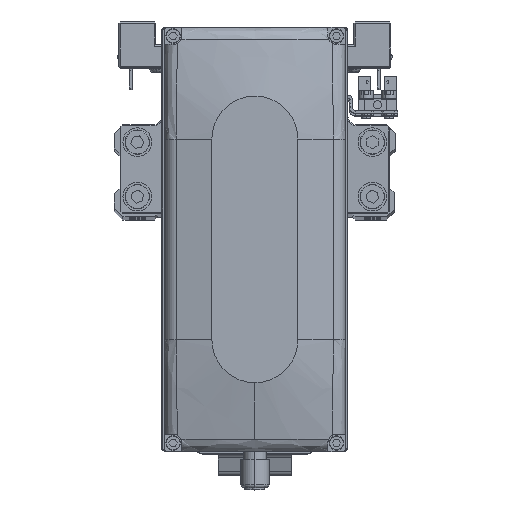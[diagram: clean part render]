
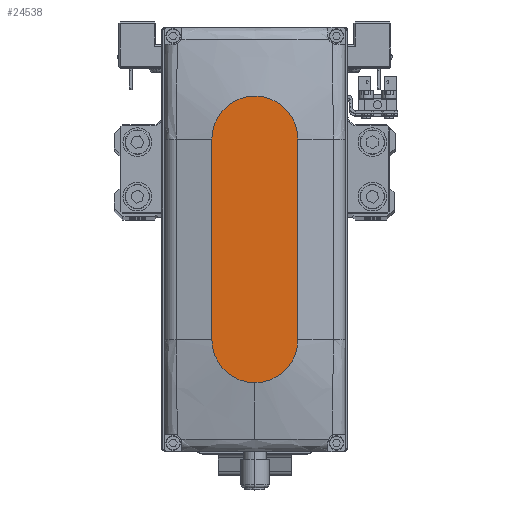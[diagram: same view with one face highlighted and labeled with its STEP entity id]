
A CAD part, top view. The second image highlights one B-rep face of the part: STEP entity #24538.
In plain terms, the highlighted planar face has unit normal (0, 0, 1).
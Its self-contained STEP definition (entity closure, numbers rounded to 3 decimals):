
#736 = VERTEX_POINT ( 'NONE', #2242 ) ;
#776 = LINE ( 'NONE', #13606, #16040 ) ;
#790 = VECTOR ( 'NONE', #16795, 1000. ) ;
#1944 = CARTESIAN_POINT ( 'NONE',  ( 35., 0., 35. ) ) ;
#2242 = CARTESIAN_POINT ( 'NONE',  ( 50., 0., 35. ) ) ;
#2326 = EDGE_CURVE ( 'NONE', #19249, #37494, #776, .T. ) ;
#3010 = CARTESIAN_POINT ( 'NONE',  ( 35., -15., 35. ) ) ;
#3139 = AXIS2_PLACEMENT_3D ( 'NONE', #40512, #11783, #24570 ) ;
#3998 = CARTESIAN_POINT ( 'NONE',  ( -35., -15., 35. ) ) ;
#5296 = AXIS2_PLACEMENT_3D ( 'NONE', #8513, #21317, #34116 ) ;
#6289 = CARTESIAN_POINT ( 'NONE',  ( -35., 0., 35. ) ) ;
#6840 = AXIS2_PLACEMENT_3D ( 'NONE', #1944, #14759, #27564 ) ;
#8513 = CARTESIAN_POINT ( 'NONE',  ( 0., 0., 35. ) ) ;
#11783 = DIRECTION ( 'NONE',  ( 0., 0., 1. ) ) ;
#12115 = CARTESIAN_POINT ( 'NONE',  ( 35., 15., 35. ) ) ;
#12986 = EDGE_LOOP ( 'NONE', ( #23335, #28029, #29574, #25787, #30506 ) ) ;
#13606 = CARTESIAN_POINT ( 'NONE',  ( -35., 15., 35. ) ) ;
#14759 = DIRECTION ( 'NONE',  ( 0., 0., 1. ) ) ;
#16040 = VECTOR ( 'NONE', #26414, 1000. ) ;
#16795 = DIRECTION ( 'NONE',  ( 1., 0., 0. ) ) ;
#17593 = AXIS2_PLACEMENT_3D ( 'NONE', #6289, #19075, #31894 ) ;
#19075 = DIRECTION ( 'NONE',  ( 0., 0., 1. ) ) ;
#19249 = VERTEX_POINT ( 'NONE', #12115 ) ;
#21267 = CIRCLE ( 'NONE', #3139, 15. ) ;
#21317 = DIRECTION ( 'NONE',  ( 0., 0., 1. ) ) ;
#21943 = EDGE_CURVE ( 'NONE', #40827, #736, #21267, .T. ) ;
#23335 = ORIENTED_EDGE ( 'NONE', *, *, #2326, .T. ) ;
#23678 = CARTESIAN_POINT ( 'NONE',  ( -35., 15., 35. ) ) ;
#24462 = FACE_OUTER_BOUND ( 'NONE', #12986, .T. ) ;
#24538 = ADVANCED_FACE ( 'NONE', ( #24462 ), #37256, .T. ) ;
#24570 = DIRECTION ( 'NONE',  ( 1., 0., 0. ) ) ;
#24942 = CIRCLE ( 'NONE', #6840, 15. ) ;
#25787 = ORIENTED_EDGE ( 'NONE', *, *, #21943, .T. ) ;
#26414 = DIRECTION ( 'NONE',  ( -1., 0., 0. ) ) ;
#26438 = EDGE_CURVE ( 'NONE', #31910, #40827, #32759, .T. ) ;
#26799 = EDGE_CURVE ( 'NONE', #37494, #31910, #35685, .T. ) ;
#27564 = DIRECTION ( 'NONE',  ( 1., 0., 0. ) ) ;
#28029 = ORIENTED_EDGE ( 'NONE', *, *, #26799, .T. ) ;
#29574 = ORIENTED_EDGE ( 'NONE', *, *, #26438, .T. ) ;
#30506 = ORIENTED_EDGE ( 'NONE', *, *, #31273, .T. ) ;
#31273 = EDGE_CURVE ( 'NONE', #736, #19249, #24942, .T. ) ;
#31894 = DIRECTION ( 'NONE',  ( 1., 0., 0. ) ) ;
#31910 = VERTEX_POINT ( 'NONE', #38372 ) ;
#32759 = LINE ( 'NONE', #3998, #790 ) ;
#34116 = DIRECTION ( 'NONE',  ( 1., 0., 0. ) ) ;
#35685 = CIRCLE ( 'NONE', #17593, 15. ) ;
#37256 = PLANE ( 'NONE',  #5296 ) ;
#37494 = VERTEX_POINT ( 'NONE', #23678 ) ;
#38372 = CARTESIAN_POINT ( 'NONE',  ( -35., -15., 35. ) ) ;
#40512 = CARTESIAN_POINT ( 'NONE',  ( 35., 0., 35. ) ) ;
#40827 = VERTEX_POINT ( 'NONE', #3010 ) ;
